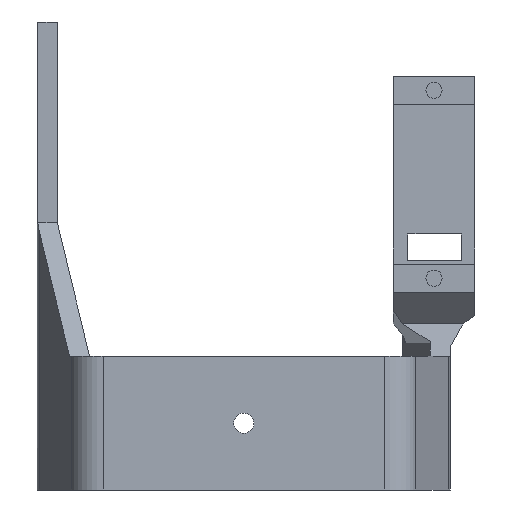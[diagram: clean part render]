
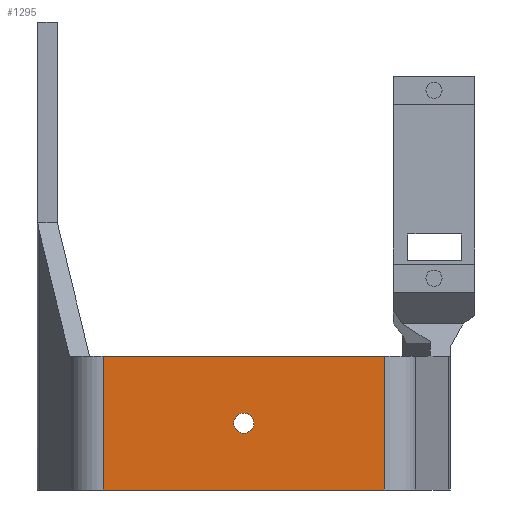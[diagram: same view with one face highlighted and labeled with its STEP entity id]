
A CAD part, left-side view. The second image highlights one B-rep face of the part: STEP entity #1295.
In plain terms, the highlighted planar face has unit normal (-1, 0, 0).
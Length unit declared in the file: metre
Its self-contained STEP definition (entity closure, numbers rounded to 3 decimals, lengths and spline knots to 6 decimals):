
#40=CIRCLE('',#1388,0.0015);
#191=ORIENTED_EDGE('',*,*,#537,.F.);
#192=ORIENTED_EDGE('',*,*,#507,.F.);
#193=ORIENTED_EDGE('',*,*,#538,.T.);
#194=ORIENTED_EDGE('',*,*,#539,.T.);
#195=ORIENTED_EDGE('',*,*,#540,.T.);
#507=EDGE_CURVE('',#685,#686,#815,.T.);
#537=EDGE_CURVE('',#704,#704,#40,.T.);
#538=EDGE_CURVE('',#685,#705,#839,.T.);
#539=EDGE_CURVE('',#705,#706,#840,.T.);
#540=EDGE_CURVE('',#706,#686,#841,.F.);
#685=VERTEX_POINT('',#1962);
#686=VERTEX_POINT('',#1964);
#704=VERTEX_POINT('',#2020);
#705=VERTEX_POINT('',#2022);
#706=VERTEX_POINT('',#2024);
#815=LINE('',#1963,#965);
#839=LINE('',#2021,#989);
#840=LINE('',#2023,#990);
#841=LINE('',#2025,#991);
#965=VECTOR('',#1560,1.);
#989=VECTOR('',#1614,1.);
#990=VECTOR('',#1615,1.);
#991=VECTOR('',#1616,1.);
#1076=EDGE_LOOP('',(#191));
#1077=EDGE_LOOP('',(#192,#193,#194,#195));
#1164=FACE_BOUND('',#1076,.T.);
#1165=FACE_BOUND('',#1077,.T.);
#1245=PLANE('',#1387);
#1295=ADVANCED_FACE('',(#1164,#1165),#1245,.F.);
#1387=AXIS2_PLACEMENT_3D('',#2018,#1610,#1611);
#1388=AXIS2_PLACEMENT_3D('',#2019,#1612,#1613);
#1560=DIRECTION('',(0.,-1.,0.));
#1610=DIRECTION('',(1.,0.,0.));
#1611=DIRECTION('',(0.,0.,-1.));
#1612=DIRECTION('',(-1.,0.,0.));
#1613=DIRECTION('',(0.,0.,1.));
#1614=DIRECTION('',(0.,0.,-1.));
#1615=DIRECTION('',(0.,-1.,0.));
#1616=DIRECTION('',(0.,0.,-1.));
#1962=CARTESIAN_POINT('',(-0.0222,0.021026,0.02));
#1963=CARTESIAN_POINT('',(-0.0222,-0.016,0.02));
#1964=CARTESIAN_POINT('',(-0.0222,-0.021026,0.02));
#2018=CARTESIAN_POINT('',(-0.0222,-0.016,0.02));
#2019=CARTESIAN_POINT('',(-0.0222,0.,0.01));
#2020=CARTESIAN_POINT('',(-0.0222,0.,0.0115));
#2021=CARTESIAN_POINT('',(-0.0222,0.021026,0.));
#2022=CARTESIAN_POINT('',(-0.0222,0.021026,0.));
#2023=CARTESIAN_POINT('',(-0.0222,-0.016,0.));
#2024=CARTESIAN_POINT('',(-0.0222,-0.021026,0.));
#2025=CARTESIAN_POINT('',(-0.0222,-0.021026,0.02));
